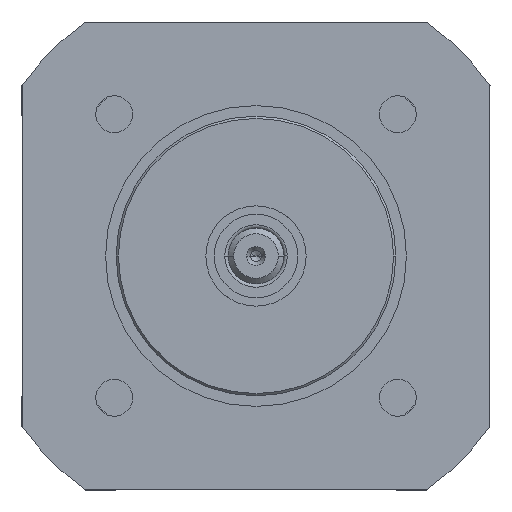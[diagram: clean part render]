
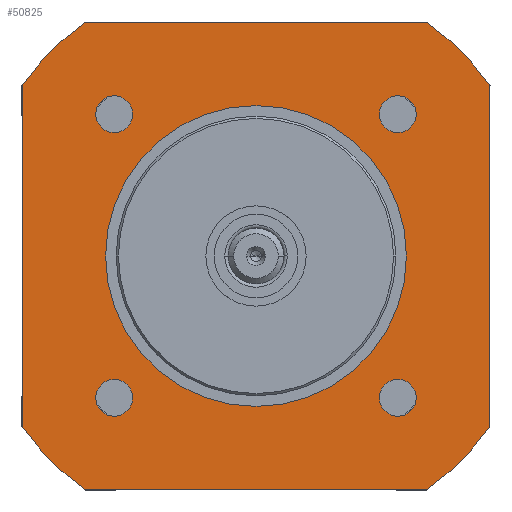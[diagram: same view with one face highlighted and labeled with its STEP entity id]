
A CAD part, left-side view. The second image highlights one B-rep face of the part: STEP entity #50825.
In plain terms, the highlighted planar face has unit normal (-1, 0, 0).
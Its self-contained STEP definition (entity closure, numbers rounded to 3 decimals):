
#1947=CARTESIAN_POINT('',(-10.5,0.,0.));
#1948=DIRECTION('',(-1.,0.,0.));
#1949=DIRECTION('',(0.,-0.59,-0.808));
#1950=AXIS2_PLACEMENT_3D('',#1947,#1948,#1949);
#1952=DIRECTION('',(0.,-1.,0.));
#1953=VECTOR('',#1952,30.659);
#1954=CARTESIAN_POINT('',(-10.5,15.33,-21.));
#1955=LINE('',#1954,#1953);
#1956=CARTESIAN_POINT('',(-10.5,0.,0.));
#1957=DIRECTION('',(-1.,0.,0.));
#1958=DIRECTION('',(0.,0.808,-0.59));
#1959=AXIS2_PLACEMENT_3D('',#1956,#1957,#1958);
#1961=DIRECTION('',(0.,0.,-1.));
#1962=VECTOR('',#1961,30.659);
#1963=CARTESIAN_POINT('',(-10.5,21.,15.33));
#1964=LINE('',#1963,#1962);
#1965=CARTESIAN_POINT('',(-10.5,0.,0.));
#1966=DIRECTION('',(-1.,0.,0.));
#1967=DIRECTION('',(0.,0.59,0.808));
#1968=AXIS2_PLACEMENT_3D('',#1965,#1966,#1967);
#1970=DIRECTION('',(0.,1.,0.));
#1971=VECTOR('',#1970,30.659);
#1972=CARTESIAN_POINT('',(-10.5,-15.33,21.));
#1973=LINE('',#1972,#1971);
#1974=CARTESIAN_POINT('',(-10.5,0.,0.));
#1975=DIRECTION('',(-1.,0.,0.));
#1976=DIRECTION('',(0.,-0.808,0.59));
#1977=AXIS2_PLACEMENT_3D('',#1974,#1975,#1976);
#1979=DIRECTION('',(0.,0.,1.));
#1980=VECTOR('',#1979,30.659);
#1981=CARTESIAN_POINT('',(-10.5,-21.,-15.33));
#1982=LINE('',#1981,#1980);
#1983=CARTESIAN_POINT('',(-10.5,0.,0.));
#1984=DIRECTION('',(-1.,0.,0.));
#1985=DIRECTION('',(0.,0.,1.));
#1986=AXIS2_PLACEMENT_3D('',#1983,#1984,#1985);
#1988=CARTESIAN_POINT('',(-10.5,0.,0.));
#1989=DIRECTION('',(-1.,0.,0.));
#1990=DIRECTION('',(0.,0.,-1.));
#1991=AXIS2_PLACEMENT_3D('',#1988,#1989,#1990);
#1993=CARTESIAN_POINT('',(-10.5,12.728,-12.728));
#1994=DIRECTION('',(-1.,0.,0.));
#1995=DIRECTION('',(0.,1.,0.));
#1996=AXIS2_PLACEMENT_3D('',#1993,#1994,#1995);
#1998=CARTESIAN_POINT('',(-10.5,12.728,-12.728));
#1999=DIRECTION('',(-1.,0.,0.));
#2000=DIRECTION('',(0.,-1.,0.));
#2001=AXIS2_PLACEMENT_3D('',#1998,#1999,#2000);
#2003=CARTESIAN_POINT('',(-10.5,-12.728,-12.728));
#2004=DIRECTION('',(-1.,0.,0.));
#2005=DIRECTION('',(0.,0.,-1.));
#2006=AXIS2_PLACEMENT_3D('',#2003,#2004,#2005);
#2008=CARTESIAN_POINT('',(-10.5,-12.728,-12.728));
#2009=DIRECTION('',(-1.,0.,0.));
#2010=DIRECTION('',(0.,0.,1.));
#2011=AXIS2_PLACEMENT_3D('',#2008,#2009,#2010);
#2013=CARTESIAN_POINT('',(-10.5,-12.728,12.728));
#2014=DIRECTION('',(-1.,0.,0.));
#2015=DIRECTION('',(0.,-1.,0.));
#2016=AXIS2_PLACEMENT_3D('',#2013,#2014,#2015);
#2018=CARTESIAN_POINT('',(-10.5,-12.728,12.728));
#2019=DIRECTION('',(-1.,0.,0.));
#2020=DIRECTION('',(0.,1.,0.));
#2021=AXIS2_PLACEMENT_3D('',#2018,#2019,#2020);
#2023=CARTESIAN_POINT('',(-10.5,12.728,12.728));
#2024=DIRECTION('',(-1.,0.,0.));
#2025=DIRECTION('',(0.,0.,1.));
#2026=AXIS2_PLACEMENT_3D('',#2023,#2024,#2025);
#2028=CARTESIAN_POINT('',(-10.5,12.728,12.728));
#2029=DIRECTION('',(-1.,0.,0.));
#2030=DIRECTION('',(0.,0.,-1.));
#2031=AXIS2_PLACEMENT_3D('',#2028,#2029,#2030);
#44425=CARTESIAN_POINT('',(-10.5,-21.,-15.33));
#44426=CARTESIAN_POINT('',(-10.5,-21.,15.33));
#44427=VERTEX_POINT('',#44425);
#44428=VERTEX_POINT('',#44426);
#44429=CARTESIAN_POINT('',(-10.5,-15.33,21.));
#44430=CARTESIAN_POINT('',(-10.5,15.33,21.));
#44431=VERTEX_POINT('',#44429);
#44432=VERTEX_POINT('',#44430);
#44433=CARTESIAN_POINT('',(-10.5,21.,15.33));
#44434=CARTESIAN_POINT('',(-10.5,21.,-15.33));
#44435=VERTEX_POINT('',#44433);
#44436=VERTEX_POINT('',#44434);
#44437=CARTESIAN_POINT('',(-10.5,15.33,-21.));
#44438=CARTESIAN_POINT('',(-10.5,-15.33,-21.));
#44439=VERTEX_POINT('',#44437);
#44440=VERTEX_POINT('',#44438);
#44481=CARTESIAN_POINT('',(-10.5,0.,13.5));
#44482=CARTESIAN_POINT('',(-10.5,0.,-13.5));
#44483=VERTEX_POINT('',#44481);
#44484=VERTEX_POINT('',#44482);
#44517=CARTESIAN_POINT('',(-10.5,14.378,-12.728));
#44518=CARTESIAN_POINT('',(-10.5,11.078,-12.728));
#44519=VERTEX_POINT('',#44517);
#44520=VERTEX_POINT('',#44518);
#44521=CARTESIAN_POINT('',(-10.5,-12.728,-14.378));
#44522=CARTESIAN_POINT('',(-10.5,-12.728,-11.078));
#44523=VERTEX_POINT('',#44521);
#44524=VERTEX_POINT('',#44522);
#44525=CARTESIAN_POINT('',(-10.5,-14.378,12.728));
#44526=CARTESIAN_POINT('',(-10.5,-11.078,12.728));
#44527=VERTEX_POINT('',#44525);
#44528=VERTEX_POINT('',#44526);
#44529=CARTESIAN_POINT('',(-10.5,12.728,14.378));
#44530=CARTESIAN_POINT('',(-10.5,12.728,11.078));
#44531=VERTEX_POINT('',#44529);
#44532=VERTEX_POINT('',#44530);
#50777=CARTESIAN_POINT('',(-10.5,0.,0.));
#50778=DIRECTION('',(-1.,0.,0.));
#50779=DIRECTION('',(0.,1.,0.));
#50780=AXIS2_PLACEMENT_3D('',#50777,#50778,#50779);
#50781=PLANE('',#50780);
#50783=ORIENTED_EDGE('',*,*,#50782,.F.);
#50784=ORIENTED_EDGE('',*,*,#50677,.F.);
#50785=ORIENTED_EDGE('',*,*,#50771,.F.);
#50786=ORIENTED_EDGE('',*,*,#50095,.F.);
#50788=ORIENTED_EDGE('',*,*,#50787,.F.);
#50789=ORIENTED_EDGE('',*,*,#50039,.F.);
#50791=ORIENTED_EDGE('',*,*,#50790,.F.);
#50792=ORIENTED_EDGE('',*,*,#49965,.F.);
#50793=EDGE_LOOP('',(#50783,#50784,#50785,#50786,#50788,#50789,#50791,#50792));
#50794=FACE_OUTER_BOUND('',#50793,.F.);
#50796=ORIENTED_EDGE('',*,*,#50795,.T.);
#50798=ORIENTED_EDGE('',*,*,#50797,.T.);
#50799=EDGE_LOOP('',(#50796,#50798));
#50800=FACE_BOUND('',#50799,.F.);
#50802=ORIENTED_EDGE('',*,*,#50801,.T.);
#50804=ORIENTED_EDGE('',*,*,#50803,.T.);
#50805=EDGE_LOOP('',(#50802,#50804));
#50806=FACE_BOUND('',#50805,.F.);
#50808=ORIENTED_EDGE('',*,*,#50807,.T.);
#50810=ORIENTED_EDGE('',*,*,#50809,.T.);
#50811=EDGE_LOOP('',(#50808,#50810));
#50812=FACE_BOUND('',#50811,.F.);
#50814=ORIENTED_EDGE('',*,*,#50813,.T.);
#50816=ORIENTED_EDGE('',*,*,#50815,.T.);
#50817=EDGE_LOOP('',(#50814,#50816));
#50818=FACE_BOUND('',#50817,.F.);
#50820=ORIENTED_EDGE('',*,*,#50819,.T.);
#50822=ORIENTED_EDGE('',*,*,#50821,.T.);
#50823=EDGE_LOOP('',(#50820,#50822));
#50824=FACE_BOUND('',#50823,.F.);
#50825=ADVANCED_FACE('',(#50794,#50800,#50806,#50812,#50818,#50824),#50781,.T.);
#1951=CIRCLE('',#1950,26.);
#1960=CIRCLE('',#1959,26.);
#1969=CIRCLE('',#1968,26.);
#1978=CIRCLE('',#1977,26.);
#1987=CIRCLE('',#1986,13.5);
#1992=CIRCLE('',#1991,13.5);
#1997=CIRCLE('',#1996,1.65);
#2002=CIRCLE('',#2001,1.65);
#2007=CIRCLE('',#2006,1.65);
#2012=CIRCLE('',#2011,1.65);
#2017=CIRCLE('',#2016,1.65);
#2022=CIRCLE('',#2021,1.65);
#2027=CIRCLE('',#2026,1.65);
#2032=CIRCLE('',#2031,1.65);
#49965=EDGE_CURVE('',#44427,#44428,#1982,.T.);
#50039=EDGE_CURVE('',#44431,#44432,#1973,.T.);
#50095=EDGE_CURVE('',#44435,#44436,#1964,.T.);
#50677=EDGE_CURVE('',#44439,#44440,#1955,.T.);
#50771=EDGE_CURVE('',#44436,#44439,#1960,.T.);
#50782=EDGE_CURVE('',#44440,#44427,#1951,.T.);
#50787=EDGE_CURVE('',#44432,#44435,#1969,.T.);
#50790=EDGE_CURVE('',#44428,#44431,#1978,.T.);
#50795=EDGE_CURVE('',#44483,#44484,#1987,.T.);
#50797=EDGE_CURVE('',#44484,#44483,#1992,.T.);
#50801=EDGE_CURVE('',#44519,#44520,#1997,.T.);
#50803=EDGE_CURVE('',#44520,#44519,#2002,.T.);
#50807=EDGE_CURVE('',#44523,#44524,#2007,.T.);
#50809=EDGE_CURVE('',#44524,#44523,#2012,.T.);
#50813=EDGE_CURVE('',#44527,#44528,#2017,.T.);
#50815=EDGE_CURVE('',#44528,#44527,#2022,.T.);
#50819=EDGE_CURVE('',#44531,#44532,#2027,.T.);
#50821=EDGE_CURVE('',#44532,#44531,#2032,.T.);
